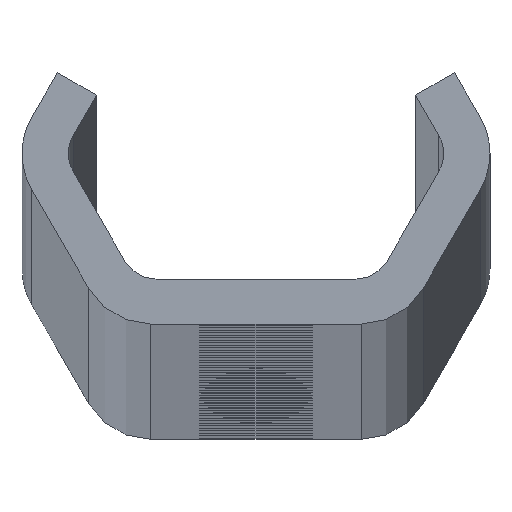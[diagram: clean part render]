
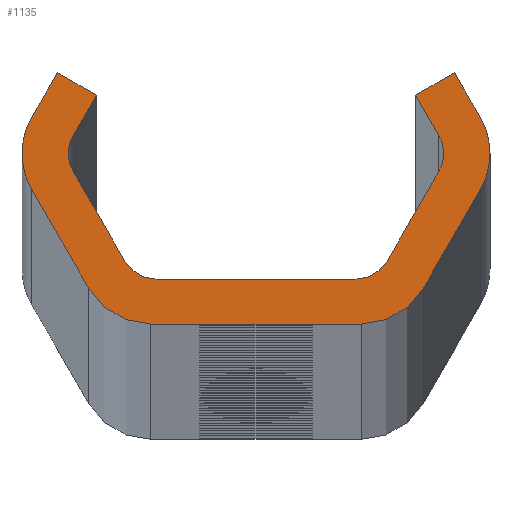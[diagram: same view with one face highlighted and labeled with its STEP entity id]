
A CAD part, top view. The second image highlights one B-rep face of the part: STEP entity #1135.
In plain terms, the highlighted planar face has unit normal (0, 0, 1).
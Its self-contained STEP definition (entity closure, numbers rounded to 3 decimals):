
#1135=ADVANCED_FACE('NONE',(#3075),#3076,.F.);
#3075=FACE_OUTER_BOUND('',#9841,.T.);
#3076=PLANE('',#9842);
#9841=EDGE_LOOP('',(#20079,#20080,#20081,#20082,#20083,#20084,#20085,#20086,#20087,#20088,#20089,#20090,#20091,#20092,#20093,#20094,#20095,#20096,#20097,#20098,#20099,#20100,#20101,#20102));
#9842=AXIS2_PLACEMENT_3D('',#20103,#20104,#20105);
#20079=ORIENTED_EDGE('',*,*,#26409,.T.);
#20080=ORIENTED_EDGE('',*,*,#26426,.T.);
#20081=ORIENTED_EDGE('',*,*,#26411,.T.);
#20082=ORIENTED_EDGE('',*,*,#26427,.T.);
#20083=ORIENTED_EDGE('',*,*,#26420,.F.);
#20084=ORIENTED_EDGE('',*,*,#26428,.T.);
#20085=ORIENTED_EDGE('',*,*,#25312,.T.);
#20086=ORIENTED_EDGE('',*,*,#26423,.F.);
#20087=ORIENTED_EDGE('',*,*,#25928,.F.);
#20088=ORIENTED_EDGE('',*,*,#25932,.F.);
#20089=ORIENTED_EDGE('',*,*,#25566,.T.);
#20090=ORIENTED_EDGE('',*,*,#26429,.T.);
#20091=ORIENTED_EDGE('',*,*,#25936,.F.);
#20092=ORIENTED_EDGE('',*,*,#26430,.T.);
#20093=ORIENTED_EDGE('',*,*,#25941,.F.);
#20094=ORIENTED_EDGE('',*,*,#26431,.T.);
#20095=ORIENTED_EDGE('',*,*,#26392,.T.);
#20096=ORIENTED_EDGE('',*,*,#26432,.T.);
#20097=ORIENTED_EDGE('',*,*,#25307,.T.);
#20098=ORIENTED_EDGE('',*,*,#26395,.T.);
#20099=ORIENTED_EDGE('',*,*,#26401,.T.);
#20100=ORIENTED_EDGE('',*,*,#26405,.T.);
#20101=ORIENTED_EDGE('',*,*,#26433,.T.);
#20102=ORIENTED_EDGE('',*,*,#25569,.T.);
#20103=CARTESIAN_POINT('',(0.0,0.0,3680.0));
#20104=DIRECTION('',(0.0,0.0,-1.0));
#20105=DIRECTION('',(0.0,-1.0,0.0));
#25307=EDGE_CURVE('NONE',#28184,#28188,#28190,.T.);
#25312=EDGE_CURVE('NONE',#28193,#28197,#28199,.T.);
#25566=EDGE_CURVE('NONE',#28656,#28654,#28657,.T.);
#25569=EDGE_CURVE('NONE',#28660,#28661,#28662,.T.);
#25928=EDGE_CURVE('NONE',#29200,#29202,#29203,.T.);
#25932=EDGE_CURVE('NONE',#28656,#29200,#29207,.T.);
#25936=EDGE_CURVE('NONE',#29212,#29214,#29215,.T.);
#25941=EDGE_CURVE('NONE',#29221,#29223,#29224,.T.);
#26392=EDGE_CURVE('NONE',#30098,#30096,#30099,.T.);
#26395=EDGE_CURVE('NONE',#28188,#30102,#30103,.T.);
#26401=EDGE_CURVE('NONE',#30102,#30110,#30112,.T.);
#26405=EDGE_CURVE('NONE',#30110,#30116,#30118,.T.);
#26409=EDGE_CURVE('NONE',#28661,#30122,#30124,.T.);
#26411=EDGE_CURVE('NONE',#30126,#30127,#30128,.T.);
#26420=EDGE_CURVE('NONE',#30140,#30142,#30143,.T.);
#26423=EDGE_CURVE('NONE',#29202,#28197,#30146,.T.);
#26426=EDGE_CURVE('NONE',#30122,#30126,#30149,.T.);
#26427=EDGE_CURVE('NONE',#30127,#30142,#30150,.T.);
#26428=EDGE_CURVE('NONE',#30140,#28193,#30151,.T.);
#26429=EDGE_CURVE('NONE',#28654,#29214,#30152,.T.);
#26430=EDGE_CURVE('NONE',#29212,#29223,#30153,.T.);
#26431=EDGE_CURVE('NONE',#29221,#30098,#30154,.T.);
#26432=EDGE_CURVE('NONE',#30096,#28184,#30155,.T.);
#26433=EDGE_CURVE('NONE',#30116,#28660,#30156,.T.);
#28184=VERTEX_POINT('',#32447);
#28188=VERTEX_POINT('NONE',#32452);
#28190=CIRCLE('',#32455,2.0);
#28193=VERTEX_POINT('',#32458);
#28197=VERTEX_POINT('NONE',#32463);
#28199=CIRCLE('',#32466,4.0);
#28654=VERTEX_POINT('NONE',#37125);
#28656=VERTEX_POINT('NONE',#37128);
#28657=CIRCLE('',#37129,2.0);
#28660=VERTEX_POINT('NONE',#37133);
#28661=VERTEX_POINT('NONE',#37134);
#28662=CIRCLE('',#37135,4.0);
#29200=VERTEX_POINT('NONE',#37764);
#29202=VERTEX_POINT('NONE',#37767);
#29203=LINE('',#37768,#37769);
#29207=LINE('',#37775,#37776);
#29212=VERTEX_POINT('NONE',#37782);
#29214=VERTEX_POINT('NONE',#37785);
#29215=LINE('',#37786,#37787);
#29221=VERTEX_POINT('NONE',#37795);
#29223=VERTEX_POINT('NONE',#37798);
#29224=LINE('',#37799,#37800);
#30096=VERTEX_POINT('NONE',#41074);
#30098=VERTEX_POINT('NONE',#41077);
#30099=LINE('',#41078,#41079);
#30102=VERTEX_POINT('NONE',#41083);
#30103=LINE('',#41084,#41085);
#30110=VERTEX_POINT('NONE',#41095);
#30112=LINE('',#41098,#41099);
#30116=VERTEX_POINT('NONE',#41104);
#30118=LINE('',#41107,#41108);
#30122=VERTEX_POINT('NONE',#41113);
#30124=LINE('',#41116,#41117);
#30126=VERTEX_POINT('NONE',#41119);
#30127=VERTEX_POINT('NONE',#41120);
#30128=LINE('',#41121,#41122);
#30140=VERTEX_POINT('NONE',#41138);
#30142=VERTEX_POINT('NONE',#41141);
#30143=LINE('',#41142,#41143);
#30146=LINE('',#41147,#41148);
#30149=CIRCLE('',#41152,4.0);
#30150=CIRCLE('',#41153,4.0);
#30151=CIRCLE('',#41154,4.0);
#30152=CIRCLE('',#41155,2.0);
#30153=CIRCLE('',#41156,2.0);
#30154=CIRCLE('',#41157,2.0);
#30155=CIRCLE('',#41158,2.0);
#30156=CIRCLE('',#41159,4.0);
#32447=CARTESIAN_POINT('',(-10.455,0.,3680.0));
#32452=CARTESIAN_POINT('',(-10.187,1.,3680.0));
#32455=AXIS2_PLACEMENT_3D('',#48853,#48854,#48855);
#32458=CARTESIAN_POINT('',(13.032,0.,3680.0));
#32463=CARTESIAN_POINT('',(12.496,2.,3680.0));
#32466=AXIS2_PLACEMENT_3D('',#48861,#48862,#48863);
#37125=CARTESIAN_POINT('',(10.455,0.,3680.0));
#37128=CARTESIAN_POINT('',(10.187,1.,3680.0));
#37129=AXIS2_PLACEMENT_3D('',#48980,#48981,#48982);
#37133=CARTESIAN_POINT('',(-13.032,0.,3680.0));
#37134=CARTESIAN_POINT('',(-12.496,-2.,3680.0));
#37135=AXIS2_PLACEMENT_3D('',#48984,#48985,#48986);
#37764=CARTESIAN_POINT('',(8.888,3.25,3680.0));
#37767=CARTESIAN_POINT('',(11.053,4.5,3680.0));
#37768=CARTESIAN_POINT('',(8.888,3.25,3680.0));
#37769=VECTOR('',#49610,1000.0);
#37775=CARTESIAN_POINT('',(10.764,0.,3680.0));
#37776=VECTOR('',#49613,1000.0);
#37782=CARTESIAN_POINT('',(7.3,-6.,3680.0));
#37785=CARTESIAN_POINT('',(10.187,-1.,3680.0));
#37786=CARTESIAN_POINT('',(6.723,-7.0,3680.0));
#37787=VECTOR('',#49616,1000.0);
#37795=CARTESIAN_POINT('',(-5.568,-7.0,3680.0));
#37798=CARTESIAN_POINT('',(5.568,-7.0,3680.0));
#37799=CARTESIAN_POINT('',(-6.723,-7.0,3680.0));
#37800=VECTOR('',#49620,1000.0);
#41074=CARTESIAN_POINT('',(-10.187,-1.,3680.0));
#41077=CARTESIAN_POINT('',(-7.3,-6.,3680.0));
#41078=CARTESIAN_POINT('',(-6.723,-7.0,3680.0));
#41079=VECTOR('',#50026,1000.0);
#41083=CARTESIAN_POINT('',(-8.888,3.25,3680.0));
#41084=CARTESIAN_POINT('',(-10.764,0.0,3680.0));
#41085=VECTOR('',#50028,1000.0);
#41095=CARTESIAN_POINT('',(-11.053,4.5,3680.0));
#41098=CARTESIAN_POINT('',(-8.888,3.25,3680.0));
#41099=VECTOR('',#50033,1000.0);
#41104=CARTESIAN_POINT('',(-12.496,2.0,3680.0));
#41107=CARTESIAN_POINT('',(-11.053,4.5,3680.0));
#41108=VECTOR('',#50036,1000.0);
#41113=CARTESIAN_POINT('',(-9.321,-7.5,3680.0));
#41116=CARTESIAN_POINT('',(-13.651,0.0,3680.0));
#41117=VECTOR('',#50039,1000.0);
#41119=CARTESIAN_POINT('',(-5.857,-9.5,3680.0));
#41120=CARTESIAN_POINT('',(5.857,-9.5,3680.0));
#41121=CARTESIAN_POINT('',(-8.166,-9.5,3680.0));
#41122=VECTOR('',#50040,1000.0);
#41138=CARTESIAN_POINT('',(12.496,-2.,3680.0));
#41141=CARTESIAN_POINT('',(9.321,-7.5,3680.0));
#41142=CARTESIAN_POINT('',(13.651,0.,3680.0));
#41143=VECTOR('',#50052,1000.0);
#41147=CARTESIAN_POINT('',(11.053,4.5,3680.0));
#41148=VECTOR('',#50054,1000.0);
#41152=AXIS2_PLACEMENT_3D('',#50056,#50057,#50058);
#41153=AXIS2_PLACEMENT_3D('',#50059,#50060,#50061);
#41154=AXIS2_PLACEMENT_3D('',#50062,#50063,#50064);
#41155=AXIS2_PLACEMENT_3D('',#50065,#50066,#50067);
#41156=AXIS2_PLACEMENT_3D('',#50068,#50069,#50070);
#41157=AXIS2_PLACEMENT_3D('',#50071,#50072,#50073);
#41158=AXIS2_PLACEMENT_3D('',#50074,#50075,#50076);
#41159=AXIS2_PLACEMENT_3D('',#50077,#50078,#50079);
#48853=CARTESIAN_POINT('',(-8.455,0.,3680.0));
#48854=DIRECTION('',(0.0,0.0,-1.0));
#48855=DIRECTION('',(-1.0,0.0,0.0));
#48861=CARTESIAN_POINT('',(9.032,0.,3680.0));
#48862=DIRECTION('',(0.0,0.0,1.0));
#48863=DIRECTION('',(-1.0,0.0,0.0));
#48980=CARTESIAN_POINT('',(8.455,0.,3680.0));
#48981=DIRECTION('',(0.0,0.0,-1.0));
#48982=DIRECTION('',(-1.0,0.0,0.0));
#48984=CARTESIAN_POINT('',(-9.032,0.,3680.0));
#48985=DIRECTION('',(0.0,0.0,1.0));
#48986=DIRECTION('',(-1.0,0.0,0.0));
#49610=DIRECTION('',(0.866,0.5,0.0));
#49613=DIRECTION('',(-0.5,0.866,0.0));
#49616=DIRECTION('',(0.5,0.866,0.0));
#49620=DIRECTION('',(1.0,0.,0.0));
#50026=DIRECTION('',(-0.5,0.866,0.0));
#50028=DIRECTION('',(0.5,0.866,0.0));
#50033=DIRECTION('',(-0.866,0.5,0.0));
#50036=DIRECTION('',(-0.5,-0.866,0.0));
#50039=DIRECTION('',(0.5,-0.866,0.0));
#50040=DIRECTION('',(1.0,0.,0.0));
#50052=DIRECTION('',(-0.5,-0.866,0.0));
#50054=DIRECTION('',(0.5,-0.866,0.0));
#50056=CARTESIAN_POINT('',(-5.857,-5.5,3680.0));
#50057=DIRECTION('',(0.0,0.0,1.0));
#50058=DIRECTION('',(-1.0,0.0,0.0));
#50059=CARTESIAN_POINT('',(5.857,-5.5,3680.0));
#50060=DIRECTION('',(0.0,0.0,1.0));
#50061=DIRECTION('',(-1.0,0.0,0.0));
#50062=CARTESIAN_POINT('',(9.032,0.,3680.0));
#50063=DIRECTION('',(0.0,0.0,1.0));
#50064=DIRECTION('',(-1.0,0.0,0.0));
#50065=CARTESIAN_POINT('',(8.455,0.,3680.0));
#50066=DIRECTION('',(0.0,0.0,-1.0));
#50067=DIRECTION('',(-1.0,0.0,0.0));
#50068=CARTESIAN_POINT('',(5.568,-5.0,3680.0));
#50069=DIRECTION('',(0.0,0.0,-1.0));
#50070=DIRECTION('',(-1.0,0.0,0.0));
#50071=CARTESIAN_POINT('',(-5.568,-5.0,3680.0));
#50072=DIRECTION('',(0.0,0.0,-1.0));
#50073=DIRECTION('',(-1.0,0.0,0.0));
#50074=CARTESIAN_POINT('',(-8.455,0.,3680.0));
#50075=DIRECTION('',(0.0,0.0,-1.0));
#50076=DIRECTION('',(-1.0,0.0,0.0));
#50077=CARTESIAN_POINT('',(-9.032,0.,3680.0));
#50078=DIRECTION('',(0.0,0.0,1.0));
#50079=DIRECTION('',(-1.0,0.,0.0));
